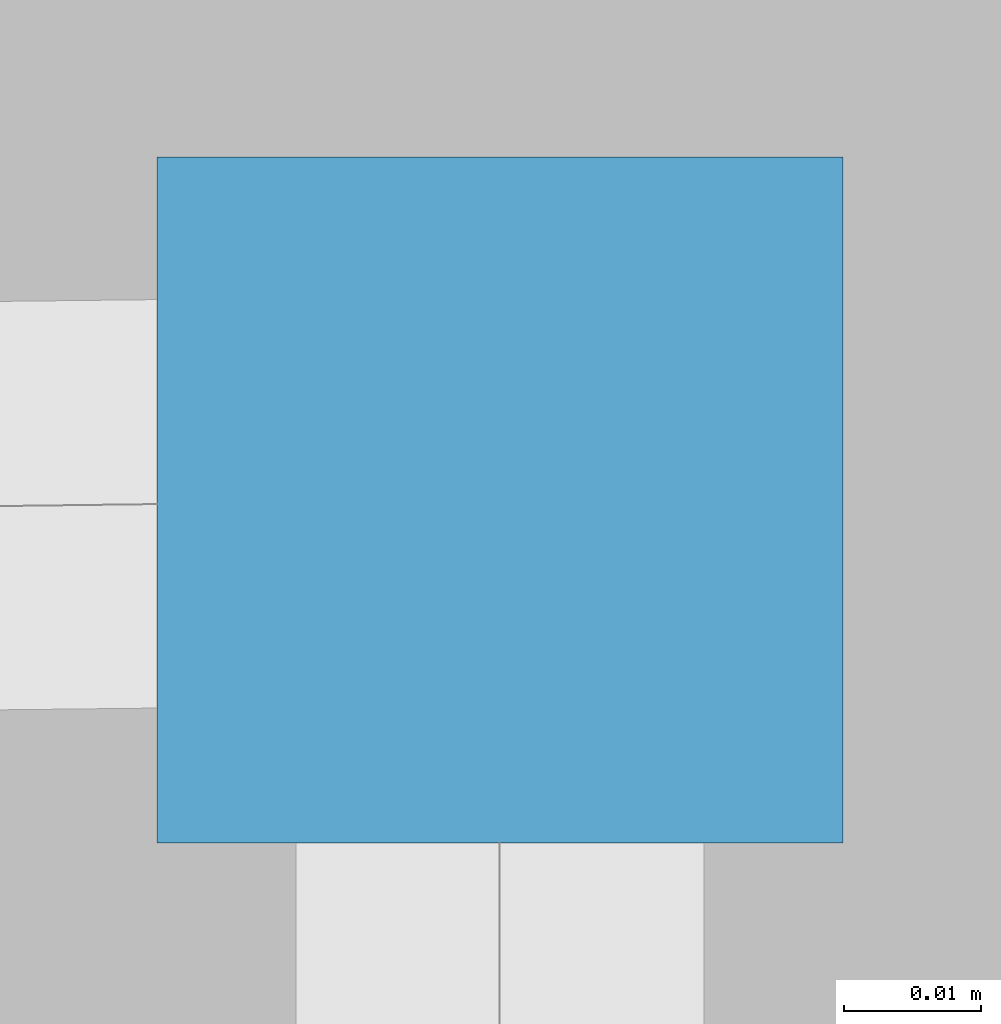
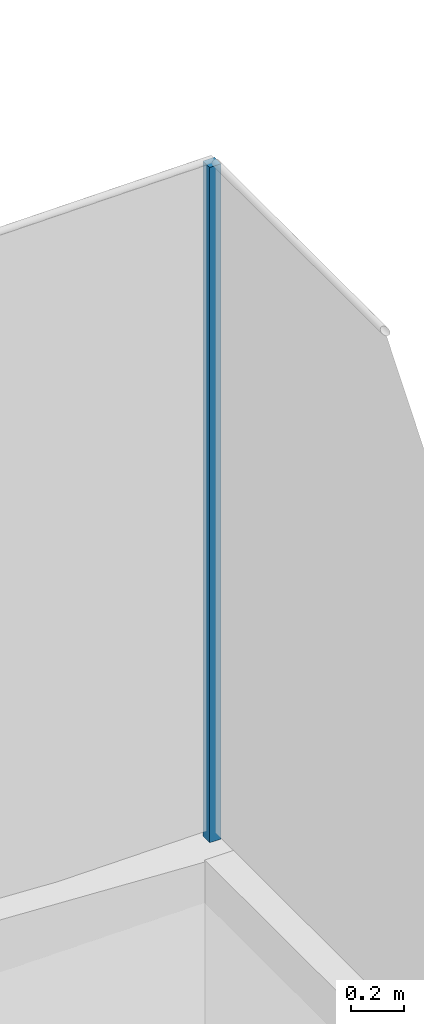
# One storey, part 9 of 237: 1 column.
"""IFC2X3 building model written with IfcOpenShell, lengths in millimetres."""

from ifc_helpers import new_model, entity, si_unit, converted_unit, derived_unit, money_unit, direction, frame, origin_with_axes, origin_2d_with_axis, place, context, subcontext, project, spatial, rectangle, extrude, material, type_object, element, save


model = new_model("IFC2X3")

# Units and contexts
model_context = context("Model", 3, precision=0.01, world=origin_with_axes(), true_north=direction((0.0, 1.0)))
body_context = subcontext(model_context, "Body", "Model", "MODEL_VIEW")
ifc_project = project(units=[si_unit("LENGTHUNIT", "METRE", prefix="MILLI"), si_unit("AREAUNIT", "SQUARE_METRE"), si_unit("VOLUMEUNIT", "CUBIC_METRE"), converted_unit("PLANEANGLEUNIT", "DEGREE", entity("IfcPlaneAngleMeasure", 0.0174532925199), si_unit("PLANEANGLEUNIT", "RADIAN"), dimensions=[0, 0, 0, 0, 0, 0, 0]), money_unit("USD"), converted_unit("TIMEUNIT", "Year", entity("IfcTimeMeasure", 31556926.0), si_unit("TIMEUNIT", "SECOND"), dimensions=[0, 0, 1, 0, 0, 0, 0]), si_unit("MASSUNIT", "GRAM", prefix="KILO"), si_unit("THERMODYNAMICTEMPERATUREUNIT", "DEGREE_CELSIUS"), si_unit("LUMINOUSINTENSITYUNIT", "LUMEN"), si_unit("ENERGYUNIT", "JOULE", prefix="MEGA"), derived_unit("THERMALCONDUCTANCEUNIT", [(si_unit("POWERUNIT", "WATT"), 1), (si_unit("LENGTHUNIT", "METRE"), -1), (si_unit("THERMODYNAMICTEMPERATUREUNIT", "KELVIN"), -1)]), derived_unit("SPECIFICHEATCAPACITYUNIT", [(si_unit("ENERGYUNIT", "JOULE"), 1), (si_unit("MASSUNIT", "GRAM", prefix="KILO"), -1), (si_unit("THERMODYNAMICTEMPERATUREUNIT", "KELVIN"), -1)]), derived_unit("MASSDENSITYUNIT", [(si_unit("MASSUNIT", "GRAM", prefix="KILO"), 1), (si_unit("VOLUMEUNIT", "CUBIC_METRE"), -1)])], contexts=[model_context])

# Site, building, storey
site_placement = place(None, origin_with_axes())
site = spatial("IfcSite", under=ifc_project, at=site_placement, Name="Local", CompositionType="ELEMENT")
building_placement = place(site_placement, origin_with_axes())
building = spatial("IfcBuilding", under=site, at=building_placement, Name="Construção", CompositionType="ELEMENT")
storey_placement = place(building_placement, origin_with_axes())
storey = spatial("IfcBuildingStorey", under=building, at=storey_placement, Name="Pavimento Térreo", CompositionType="ELEMENT", Elevation=0.0)

# Column
ifc_material = material(Name="Alumínio")
column_type = type_object("IfcColumnType", Name="Alumínio 50 x 50", PredefinedType="NOTDEFINED")
column_placement = place(storey_placement, frame((86670.2856781, 35724.024991, -3427.40377037), z_axis=(0.0, 0.0, 1.0), x_axis=(1.0, 0.0, 0.0)))
element("IfcColumn", 1, at=column_placement, inside=storey, type_object=column_type, material=ifc_material, Name="Pil-016", context=body_context, shape_type="SweptSolid", body=[
    extrude(rectangle(XDim=50.0, YDim=50.0, at=origin_2d_with_axis()), origin_with_axes(), (0.0, 0.0, 1.0), 3100.0),
])

save(model, "model.ifc")
